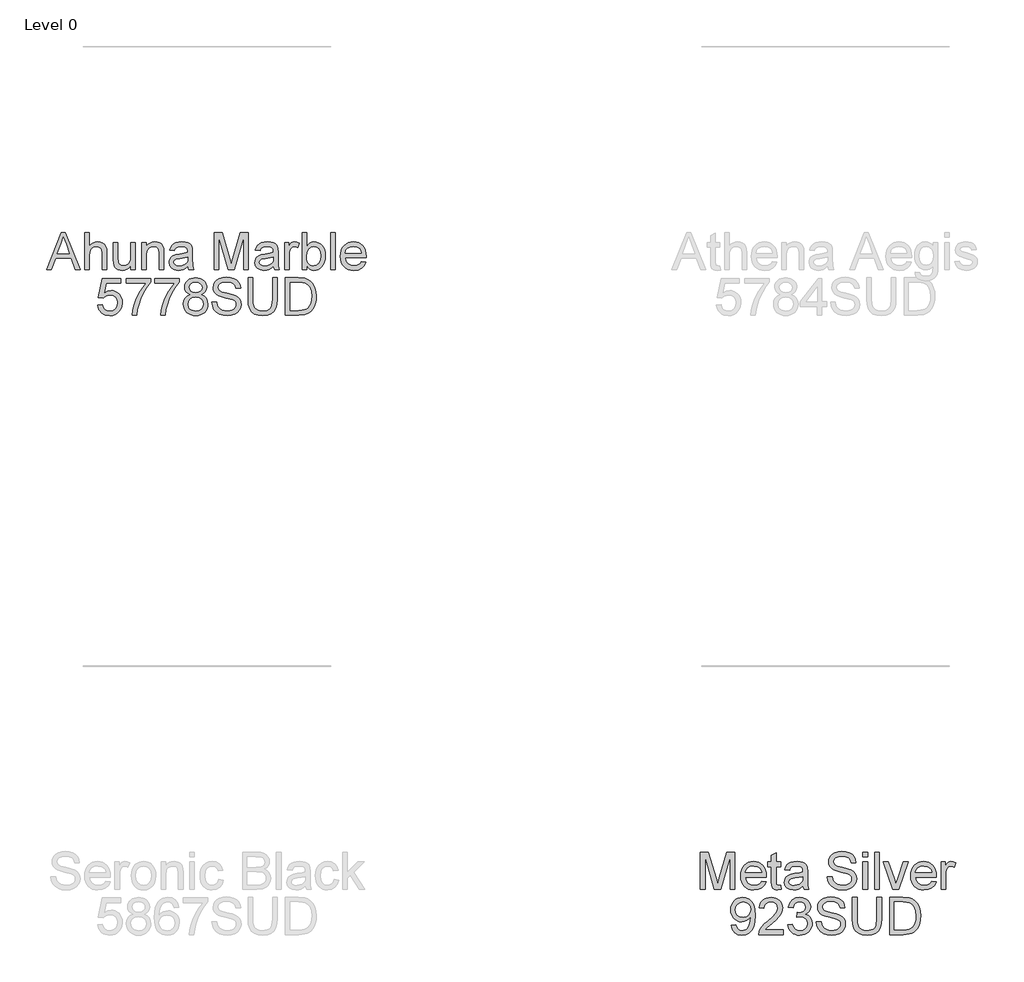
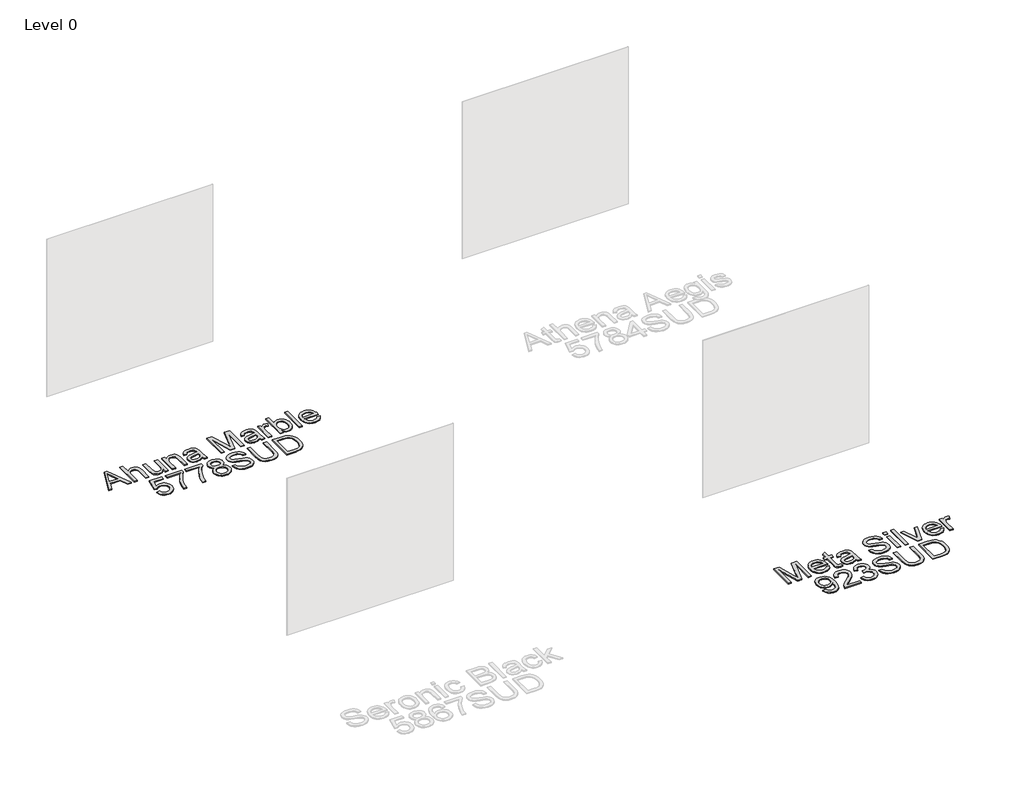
# One storey, part 9 of 29: 2 proxies.
"""IFC4 building model written with IfcOpenShell, lengths in millimetres."""

from ifc_helpers import new_model, si_unit, origin, origin_with_axes, place, context, project, spatial, polyline, outline, extrude, element, save

model = new_model("IFC4")

# Units and contexts
model_context = context("Model", 3, world=origin())
ifc_project = project(units=[si_unit("LENGTHUNIT", "METRE", prefix="MILLI")], contexts=[model_context])

# Site, building, storey
site = spatial("IfcSite", under=ifc_project)
building = spatial("IfcBuilding", under=site)
storey = spatial("IfcBuildingStorey", under=building, Name="Level 0", Elevation=0.0)

# Proxies
placement = place(None, origin())
element("IfcBuildingElementProxy", 1, Name="300mm Arial", ObjectType="300mm Arial", at=placement, inside=storey, context=model_context, shape_type="SweptSolid", body=[
    extrude(outline(polyline([(-10747.7363949, -7002.860494), (-10627.4389825, -6701.4915635), (-10595.3596725, -6701.4915635), (-10475.0622601, -7002.860494), (-10514.867092, -7002.860494), (-10549.3744231, -6908.6827032), (-10673.4978083, -6908.6827032), (-10707.931563, -7002.860494), (-10747.7363949, -7002.860494)]), holes=[polyline([(-10659.6654453, -6871.0115869), (-10563.1332097, -6871.0115869), (-10590.282901, -6796.9201531), (-10611.3993275, -6739.1626798), (-10630.1613092, -6790.44543), (-10659.6654453, -6871.0115869)])]), origin_with_axes(), (0.0, 0.0, 1.0), 10.0),
    extrude(outline(polyline([(-10439.5248593, -7002.860494), (-10439.5248593, -6701.4915635), (-10401.853743, -6701.4915635), (-10401.853743, -6812.2976205), (-10388.0167815, -6796.7821973), (-10372.4783657, -6785.6997522), (-10355.2384957, -6779.0502852), (-10336.2971715, -6776.8337961), (-10313.5436701, -6779.2526203), (-10293.9907421, -6786.5090926), (-10278.5948806, -6798.0329961), (-10268.3125788, -6813.2541137), (-10262.5184374, -6834.1682051), (-10260.5870569, -6862.7710302), (-10260.5870569, -7002.860494), (-10298.2581732, -7002.860494), (-10298.2581732, -6866.6705794), (-10301.2564115, -6843.0893435), (-10310.2511262, -6826.9393239), (-10324.7456768, -6817.6135153), (-10344.2434226, -6814.5049125), (-10360.1635159, -6816.6018398), (-10375.108722, -6822.8926219), (-10387.4879511, -6832.7702535), (-10395.7101137, -6845.6277292), (-10400.3178357, -6862.7158479), (-10401.853743, -6885.2854083), (-10401.853743, -7002.860494), (-10439.5248593, -7002.860494)])), origin_with_axes(), (0.0, 0.0, 1.0), 10.0),
    extrude(outline(polyline([(-10067.5225858, -7002.860494), (-10067.5225858, -6964.8214957), (-10081.1526137, -6983.5236966), (-10097.0267218, -6996.8824116), (-10115.1449101, -7004.8976405), (-10135.5071785, -7007.5693835), (-10153.855293, -7005.6931853), (-10170.9342147, -7000.0645908), (-10185.2632184, -6991.6033049), (-10195.3615791, -6981.2290327), (-10206.58198, -6953.4907302), (-10208.789272, -6918.4683643), (-10208.789272, -6781.5426857), (-10171.1181557, -6781.5426857), (-10171.1181557, -6900.7364521), (-10168.8372873, -6939.1433324), (-10163.3466485, -6951.9548229), (-10153.9380665, -6961.6944987), (-10141.2369406, -6967.8473251), (-10125.8686703, -6969.8982672), (-10109.6174831, -6967.8013398), (-10094.4147597, -6961.5105577), (-10081.8791807, -6951.605335), (-10073.6294269, -6938.6650858), (-10069.0492961, -6920.9423707), (-10067.5225858, -6896.6897502), (-10067.5225858, -6781.5426857), (-10029.8514695, -6781.5426857), (-10029.8514695, -7002.860494), (-10067.5225858, -7002.860494)])), origin_with_axes(), (0.0, 0.0, 1.0), 10.0),
    extrude(outline(polyline([(-9978.0536846, -7002.860494), (-9978.0536846, -6781.5426857), (-9940.3825683, -6781.5426857), (-9940.3825683, -6812.4447733), (-9927.2951663, -6796.8649708), (-9911.5774081, -6785.7365404), (-9893.2292936, -6779.0594822), (-9872.2508228, -6776.8337961), (-9853.6819791, -6778.6272209), (-9836.6766338, -6784.0074951), (-9822.4947829, -6792.303234), (-9812.3964222, -6802.8430532), (-9801.1024449, -6830.5445674), (-9799.1158821, -6866.964885), (-9799.1158821, -7002.860494), (-9836.7869984, -7002.860494), (-9836.7869984, -6872.0416565), (-9841.128006, -6838.7115477), (-9847.1336796, -6828.7879309), (-9856.4686852, -6821.0900002), (-9868.4340471, -6816.1511844), (-9882.3307894, -6814.5049125), (-9904.3945121, -6818.2021265), (-9923.2024791, -6829.2937687), (-9930.7187681, -6838.3482643), (-9936.087546, -6850.7228949), (-9940.3825683, -6885.4325611), (-9940.3825683, -7002.860494), (-9978.0536846, -7002.860494)])), origin_with_axes(), (0.0, 0.0, 1.0), 10.0),
    extrude(outline(polyline([(-9606.0514111, -6974.6071568), (-9624.0500377, -6990.0398064), (-9642.5820932, -7000.1381672), (-9662.0706419, -7005.7115794), (-9682.9387481, -7007.5693835), (-9714.4202498, -7003.0996173), (-9737.6428007, -6989.6903186), (-9751.9626074, -6969.3280501), (-9756.7358763, -6943.9993748), (-9754.9332545, -6928.3827841), (-9749.5253892, -6914.2009331), (-9741.1836649, -6902.0608273), (-9730.5794664, -6892.5694718), (-9704.2023274, -6880.2086368), (-9671.6079826, -6874.5432541), (-9633.0907377, -6868.5835657), (-9606.2721403, -6861.5938078), (-9606.0514111, -6853.2060983), (-9608.6449791, -6836.3938912), (-9616.4256833, -6825.3942195), (-9633.8265017, -6817.2272392), (-9658.0699252, -6814.5049125), (-9680.5107269, -6816.3167313), (-9696.1824999, -6821.7521878), (-9706.8694718, -6831.8045633), (-9714.3558705, -6847.4671392), (-9752.0269868, -6842.7582497), (-9745.4878843, -6822.156858), (-9735.7298144, -6805.9700502), (-9721.8422691, -6793.590821), (-9702.9147404, -6784.4121652), (-9679.7657659, -6778.7283884), (-9653.2138829, -6776.8337961), (-9627.7472517, -6778.5076592), (-9607.5597273, -6783.5292485), (-9592.3386097, -6791.0800264), (-9581.7711994, -6800.3414556), (-9574.7630474, -6811.7917827), (-9570.2197047, -6825.9092543), (-9568.3802948, -6858.8714811), (-9568.3802948, -6905.7396473), (-9566.4673084, -6971.1858542), (-9558.9625157, -7002.860494), (-9596.633632, -7002.860494), (-9606.0514111, -6974.6071568)]), holes=[polyline([(-9606.0514111, -6899.2649241), (-9666.8255167, -6910.8164188), (-9699.2359204, -6916.9232599), (-9713.9144121, -6926.8560738), (-9719.06476, -6941.3506244), (-9716.2596598, -6952.5526311), (-9707.8443591, -6961.7312869), (-9694.0027991, -6967.8565221), (-9674.9189206, -6969.8982672), (-9654.6854108, -6967.64499), (-9636.8063459, -6960.8851583), (-9622.3117953, -6950.9247533), (-9612.2318286, -6939.069756), (-9607.7620623, -6926.8560738), (-9606.2721403, -6909.933502), (-9606.0514111, -6899.2649241)])]), origin_with_axes(), (0.0, 0.0, 1.0), 10.0),
    extrude(outline(polyline([(-9394.1513818, -7002.860494), (-9394.1513818, -6701.4915635), (-9329.3305743, -6701.4915635), (-9267.6735519, -6913.9066275), (-9255.2391405, -6958.2731962), (-9241.7746594, -6910.2278076), (-9181.1477066, -6701.4915635), (-9116.3268991, -6701.4915635), (-9116.3268991, -7002.860494), (-9153.9980154, -7002.860494), (-9153.9980154, -6739.1626798), (-9229.70813, -7002.860494), (-9280.7701509, -7002.860494), (-9356.4802655, -6739.1626798), (-9356.4802655, -7002.860494), (-9394.1513818, -7002.860494)])), origin_with_axes(), (0.0, 0.0, 1.0), 10.0),
    extrude(outline(polyline([(-8913.8446489, -6974.6071568), (-8931.8432756, -6990.0398064), (-8950.3753311, -7000.1381672), (-8969.8638798, -7005.7115794), (-8990.7319859, -7007.5693835), (-9022.2134877, -7003.0996173), (-9045.4360386, -6989.6903186), (-9059.7558453, -6969.3280501), (-9064.5291142, -6943.9993748), (-9062.7264924, -6928.3827841), (-9057.3186271, -6914.2009331), (-9048.9769028, -6902.0608273), (-9038.3727043, -6892.5694718), (-9011.9955653, -6880.2086368), (-8979.4012205, -6874.5432541), (-8940.8839756, -6868.5835657), (-8914.0653781, -6861.5938078), (-8913.8446489, -6853.2060983), (-8916.438217, -6836.3938912), (-8924.2189212, -6825.3942195), (-8941.6197396, -6817.2272392), (-8965.8631631, -6814.5049125), (-8988.3039648, -6816.3167313), (-9003.9757378, -6821.7521878), (-9014.6627097, -6831.8045633), (-9022.1491083, -6847.4671392), (-9059.8202246, -6842.7582497), (-9053.2811222, -6822.156858), (-9043.5230522, -6805.9700502), (-9029.6355069, -6793.590821), (-9010.7079783, -6784.4121652), (-8987.5590037, -6778.7283884), (-8961.0071207, -6776.8337961), (-8935.5404896, -6778.5076592), (-8915.3529651, -6783.5292485), (-8900.1318476, -6791.0800264), (-8889.5644373, -6800.3414556), (-8882.5562853, -6811.7917827), (-8878.0129426, -6825.9092543), (-8876.1735326, -6858.8714811), (-8876.1735326, -6905.7396473), (-8874.2605463, -6971.1858542), (-8866.7557536, -7002.860494), (-8904.4268699, -7002.860494), (-8913.8446489, -6974.6071568)]), holes=[polyline([(-8913.8446489, -6899.2649241), (-8974.6187545, -6910.8164188), (-9007.0291583, -6916.9232599), (-9021.7076499, -6926.8560738), (-9026.8579979, -6941.3506244), (-9024.0528977, -6952.5526311), (-9015.637597, -6961.7312869), (-9001.7960369, -6967.8565221), (-8982.7121584, -6969.8982672), (-8962.4786487, -6967.64499), (-8944.5995837, -6960.8851583), (-8930.1050331, -6950.9247533), (-8920.0250665, -6939.069756), (-8915.5553002, -6926.8560738), (-8914.0653781, -6909.933502), (-8913.8446489, -6899.2649241)])]), origin_with_axes(), (0.0, 0.0, 1.0), 10.0),
    extrude(outline(polyline([(-8824.3757477, -7002.860494), (-8824.3757477, -6781.5426857), (-8791.413521, -6781.5426857), (-8791.413521, -6814.2841833), (-8779.2366269, -6795.3014723), (-8768.0162261, -6784.1178596), (-8756.759037, -6778.654812), (-8744.4717784, -6776.8337961), (-8725.7097966, -6779.7400639), (-8706.6535093, -6788.4588672), (-8719.2350735, -6822.2304343), (-8732.4788253, -6816.4362929), (-8745.7225771, -6814.5049125), (-8756.9705692, -6816.3627165), (-8767.0229447, -6821.9361288), (-8775.1439397, -6830.8020848), (-8780.5977903, -6842.5375205), (-8785.1779211, -6863.5803706), (-8786.7046314, -6886.5362071), (-8786.7046314, -7002.860494), (-8824.3757477, -7002.860494)])), origin_with_axes(), (0.0, 0.0, 1.0), 10.0),
    extrude(outline(polyline([(-8645.4379453, -7002.860494), (-8683.1090616, -7002.860494), (-8683.1090616, -6701.4915635), (-8645.4379453, -6701.4915635), (-8645.4379453, -6813.2541137), (-8633.0495191, -6797.3202248), (-8619.0608062, -6785.9388755), (-8603.4718067, -6779.110066), (-8586.2825204, -6776.8337961), (-8566.8767452, -6778.8847383), (-8548.5378277, -6785.0375646), (-8532.3142317, -6794.9059992), (-8519.2544209, -6808.1037657), (-8509.0181044, -6824.5021057), (-8501.2649914, -6843.9722603), (-8496.3813579, -6865.7048891), (-8494.75348, -6888.8906519), (-8496.4388394, -6915.64487), (-8501.4949176, -6939.1801206), (-8509.9217146, -6959.4964038), (-8521.7192303, -6976.5937195), (-8535.8803878, -6990.1455725), (-8551.3981102, -6999.8254675), (-8568.2723975, -7005.6334045), (-8586.5032496, -7007.5693835), (-8604.2581544, -7005.0723845), (-8619.9989053, -6997.5813874), (-8633.7255022, -6985.0963921), (-8645.4379453, -6967.6173988), (-8645.4379453, -7002.860494)]), holes=[polyline([(-8645.4379453, -6890.6564855), (-8642.8627713, -6922.0736078), (-8635.1372494, -6943.3371872), (-8626.0091774, -6954.9576597), (-8615.4003804, -6963.2579972), (-8603.3108583, -6968.2381997), (-8589.7406112, -6969.8982672), (-8567.9987853, -6965.0054367), (-8549.4207445, -6950.3269451), (-8536.6736334, -6925.9547629), (-8532.4245963, -6891.9808606), (-8536.4988894, -6857.5103177), (-8548.7217687, -6833.414047), (-8566.7203953, -6819.2321961), (-8588.1219304, -6814.5049125), (-8609.8637563, -6819.397743), (-8628.4417971, -6834.0762346), (-8641.1889082, -6858.0069584), (-8645.4379453, -6890.6564855)])]), origin_with_axes(), (0.0, 0.0, 1.0), 10.0),
    extrude(outline(polyline([(-8452.3734742, -7002.860494), (-8452.3734742, -6701.4915635), (-8414.7023579, -6701.4915635), (-8414.7023579, -7002.860494), (-8452.3734742, -7002.860494)])), origin_with_axes(), (0.0, 0.0, 1.0), 10.0),
    extrude(outline(polyline([(-8203.2437871, -6936.9360404), (-8166.3084347, -6941.64493), (-8179.6165659, -6969.4752029), (-8200.8525541, -6990.2789297), (-8229.5381527, -7003.2467701), (-8265.195115, -7007.5693835), (-8288.5694173, -7005.7046817), (-8309.3961368, -7000.1105761), (-8327.6752734, -6990.7870668), (-8343.4068272, -6977.7341537), (-8356.0573693, -6961.3151204), (-8365.0934708, -6941.8932503), (-8370.5151317, -6919.4685435), (-8372.322352, -6894.0409998), (-8370.4967376, -6867.7512327), (-8365.0198944, -6844.5792656), (-8355.8918224, -6824.5250983), (-8343.1125216, -6807.5887309), (-8327.4223545, -6794.133447), (-8309.5616837, -6784.5225298), (-8289.530509, -6778.7559796), (-8267.3288306, -6776.8337961), (-8245.8422228, -6778.751381), (-8226.4111557, -6784.5041357), (-8209.0356292, -6794.0920602), (-8193.7156434, -6807.5151545), (-8181.2099548, -6824.4147337), (-8172.2773201, -6844.4321128), (-8166.9177393, -6867.5672917), (-8165.1312124, -6893.8202706), (-8165.3519416, -6903.9738137), (-8334.6512357, -6903.9738137), (-8328.1305274, -6932.1719686), (-8312.9829862, -6952.902119), (-8291.1215987, -6965.6492302), (-8264.4593511, -6969.8982672), (-8244.4097823, -6967.9300985), (-8227.5239987, -6962.0255925), (-8213.8020003, -6951.8168672), (-8203.2437871, -6936.9360404)]), holes=[polyline([(-8334.6512357, -6866.3026974), (-8202.8023287, -6866.3026974), (-8207.8974943, -6846.4002814), (-8217.8854905, -6832.1632482), (-8239.8480456, -6818.9194964), (-8267.4759834, -6814.5049125), (-8292.8690381, -6818.0273826), (-8313.865903, -6828.5947929), (-8328.4616212, -6845.0667092), (-8334.6512357, -6866.3026974)])]), origin_with_axes(), (0.0, 0.0, 1.0), 10.0),
    extrude(outline(polyline([(-10333.5748447, -7288.7338254), (-10295.9037284, -7284.0249358), (-10288.9875469, -7306.6404815), (-10276.9210175, -7322.8364863), (-10259.7593224, -7332.5761621), (-10237.557644, -7335.8227207), (-10210.5551055, -7331.3069693), (-10190.3215958, -7317.7597148), (-10177.6848493, -7296.7444558), (-10173.4726004, -7269.8246908), (-10177.4181348, -7244.4776213), (-10189.254738, -7225.0902402), (-10209.0743805, -7212.7845875), (-10236.9690328, -7208.6827032), (-10255.2435709, -7210.3197781), (-10270.0416242, -7215.2310027), (-10291.1948389, -7232.2271509), (-10328.8659552, -7227.5182614), (-10295.9037284, -7072.1249066), (-10149.9281527, -7072.1249066), (-10149.9281527, -7109.7960229), (-10265.4430992, -7109.7960229), (-10281.5563306, -7192.790201), (-10254.6457627, -7176.4562404), (-10226.4476077, -7171.0115869), (-10208.1017925, -7172.6992456), (-10191.2504978, -7177.7622215), (-10175.8937238, -7186.2005148), (-10162.0314704, -7198.0141254), (-10150.5558514, -7212.4810848), (-10142.3589807, -7228.8794248), (-10137.4408583, -7247.2091452), (-10135.8014841, -7267.470246), (-10141.7059901, -7305.1413624), (-10149.0866227, -7321.9351754), (-10159.4195082, -7337.3678251), (-10175.0728871, -7353.1729553), (-10193.3382282, -7364.4623341), (-10214.2155314, -7371.2359613), (-10237.7047968, -7373.4938371), (-10274.7045285, -7367.6904986), (-10290.3831992, -7360.4363255), (-10304.1810733, -7350.2804832), (-10315.6612908, -7337.7288093), (-10324.3869919, -7323.2871418), (-10333.5748447, -7288.7338254)])), origin_with_axes(), (0.0, 0.0, 1.0), 10.0),
    extrude(outline(polyline([(-10102.8392574, -7109.7960229), (-10102.8392574, -7072.1249066), (-9905.0658967, -7072.1249066), (-9905.0658967, -7102.5855358), (-9933.2548546, -7138.2608923), (-9961.167901, -7183.6299393), (-9985.7884035, -7234.5540045), (-10004.0997299, -7286.8944154), (-10013.0760505, -7326.0554538), (-10018.0792457, -7368.7849475), (-10055.750362, -7368.7849475), (-10051.6760689, -7329.9550029), (-10040.7775648, -7283.8042066), (-10023.3491552, -7234.8850983), (-9999.6851459, -7187.7502177), (-9972.0572081, -7145.1402856), (-9942.7370131, -7109.7960229), (-10102.8392574, -7109.7960229)])), origin_with_axes(), (0.0, 0.0, 1.0), 10.0),
    extrude(outline(polyline([(-9872.10367, -7109.7960229), (-9872.10367, -7072.1249066), (-9674.3303094, -7072.1249066), (-9674.3303094, -7102.5855358), (-9702.5192673, -7138.2608923), (-9730.4323136, -7183.6299393), (-9755.0528162, -7234.5540045), (-9773.3641425, -7286.8944154), (-9782.3404632, -7326.0554538), (-9787.3436583, -7368.7849475), (-9825.0147746, -7368.7849475), (-9820.9404815, -7329.9550029), (-9810.0419774, -7283.8042066), (-9792.6135679, -7234.8850983), (-9768.9495585, -7187.7502177), (-9741.3216207, -7145.1402856), (-9712.0014257, -7109.7960229), (-9872.10367, -7109.7960229)])), origin_with_axes(), (0.0, 0.0, 1.0), 10.0),
    extrude(outline(polyline([(-9586.4800889, -7202.7965913), (-9606.6492193, -7192.8637774), (-9620.8034791, -7179.3992964), (-9629.1635974, -7162.6790597), (-9631.9503035, -7142.9789789), (-9630.4327903, -7127.6153071), (-9625.8802506, -7113.5300252), (-9618.2926845, -7100.7231332), (-9607.6700918, -7089.1946312), (-9594.522909, -7079.6664875), (-9579.3615723, -7072.8606706), (-9542.9964371, -7067.4160171), (-9506.4105727, -7072.9894293), (-9491.0836891, -7079.9561946), (-9477.7341712, -7089.709666), (-9466.9184405, -7101.4634957), (-9459.1929186, -7114.4313361), (-9454.5576055, -7128.613187), (-9453.0125011, -7144.0090485), (-9455.762419, -7163.0745329), (-9464.0121727, -7179.509661), (-9477.8537328, -7192.8913686), (-9497.3790697, -7202.7965913), (-9474.1933069, -7214.7435591), (-9457.3167204, -7232.3375155), (-9447.0252216, -7254.732332), (-9443.594722, -7281.0818799), (-9445.2961762, -7299.8714528), (-9450.4005389, -7317.0975272), (-9458.90781, -7332.7601031), (-9470.8179896, -7346.8591806), (-9485.5056783, -7358.5118428), (-9502.3454766, -7366.8351729), (-9521.3373846, -7371.829171), (-9542.4814023, -7373.4938371), (-9563.62542, -7371.8222732), (-9582.617328, -7366.8075818), (-9599.4571263, -7358.4497627), (-9614.144815, -7346.748816), (-9626.0549946, -7332.5508703), (-9634.5622657, -7316.702054), (-9639.6666284, -7299.2023674), (-9641.3680826, -7280.0518103), (-9637.7996273, -7252.6813898), (-9627.0942612, -7230.1670117), (-9609.8038074, -7213.2812282), (-9586.4800889, -7202.7965913)]), holes=[polyline([(-9594.2791872, -7144.0826249), (-9590.9406581, -7160.52695), (-9580.9250708, -7173.6603373), (-9564.5267309, -7182.268776), (-9542.0399439, -7185.1382555), (-9520.0773888, -7182.2871701), (-9503.9273692, -7173.7339137), (-9493.9945553, -7161.0419848), (-9490.6836174, -7145.774882), (-9494.1049199, -7129.9283651), (-9504.3688276, -7116.822569), (-9520.7395764, -7108.0209923), (-9542.4814023, -7105.0871334), (-9564.361184, -7107.9566129), (-9580.7043416, -7116.5650516), (-9590.8854758, -7129.1834041), (-9594.2791872, -7144.0826249)]), polyline([(-9603.6969663, -7278.7274351), (-9597.4061842, -7307.0911369), (-9588.6965779, -7319.2588339), (-9575.1493235, -7328.317928), (-9558.9257275, -7333.9465226), (-9542.1870967, -7335.8227207), (-9516.5457216, -7331.8771864), (-9497.3054933, -7320.0405832), (-9485.2757521, -7302.1155329), (-9481.2658383, -7279.9046575), (-9485.4045108, -7257.316703), (-9497.8205281, -7238.9961796), (-9517.5022148, -7226.8560738), (-9543.4378955, -7222.8093718), (-9568.7205856, -7226.8008915), (-9587.7676759, -7238.7754504), (-9599.7146437, -7256.7464859), (-9603.6969663, -7278.7274351)])]), origin_with_axes(), (0.0, 0.0, 1.0), 10.0),
    extrude(outline(polyline([(-9410.6324952, -7265.1893777), (-9372.9613789, -7265.1893777), (-9368.6387655, -7286.0942721), (-9360.8212731, -7302.8972822), (-9348.6259849, -7316.2330045), (-9331.1699843, -7326.7360355), (-9309.8328286, -7333.5510494), (-9285.9940753, -7335.8227207), (-9265.0064074, -7334.1028724), (-9246.6307018, -7328.9433274), (-9231.740678, -7320.7763471), (-9221.2100559, -7310.0341929), (-9214.9468649, -7297.700949), (-9212.8591346, -7284.7606998), (-9214.4226331, -7272.1515444), (-9219.1131285, -7261.2530403), (-9228.6412722, -7251.9548229), (-9244.7177154, -7244.1465276), (-9299.5689209, -7229.7623415), (-9335.5753712, -7220.2433949), (-9358.6139811, -7211.1843008), (-9377.3667658, -7198.510766), (-9390.6565029, -7183.1516928), (-9398.5751628, -7165.4381747), (-9401.2147162, -7145.7013056), (-9397.9497634, -7123.637583), (-9388.1549053, -7103.0637824), (-9372.0876592, -7085.6261758), (-9350.0055424, -7072.9710352), (-9323.4996447, -7065.2731044), (-9294.1610556, -7062.7071275), (-9262.3760512, -7065.3926661), (-9234.5641723, -7073.4492818), (-9211.7187004, -7086.7114277), (-9194.8329169, -7105.013557), (-9184.1459449, -7127.2152354), (-9179.8969079, -7152.1760288), (-9217.5680242, -7152.1760288), (-9224.4842057, -7129.6984389), (-9238.9051799, -7113.4748429), (-9261.4379521, -7103.6523936), (-9292.6895276, -7100.3782438), (-9324.6768671, -7103.6156054), (-9346.6210281, -7113.3276901), (-9359.3129569, -7127.6199056), (-9363.5435998, -7144.5976597), (-9360.5453616, -7159.0738162), (-9351.5506468, -7170.7172813), (-9330.2870675, -7181.1283418), (-9290.0407772, -7191.7601314), (-9248.5069, -7201.8584922), (-9223.3805597, -7210.669266), (-9201.9054482, -7224.3360821), (-9186.923454, -7241.2034716), (-9178.1218772, -7261.0874934), (-9175.1880183, -7283.8042066), (-9178.5633356, -7307.0267576), (-9188.6892875, -7328.869751), (-9205.1520068, -7347.668521), (-9227.5376262, -7361.7584014), (-9254.4573912, -7370.5599781), (-9284.5225473, -7373.4938371), (-9321.4303085, -7370.3300519), (-9351.8081642, -7360.8386964), (-9376.0056024, -7344.9829824), (-9394.372111, -7322.7261217), (-9406.162729, -7295.6132187), (-9410.6324952, -7265.1893777)])), origin_with_axes(), (0.0, 0.0, 1.0), 10.0),
    extrude(outline(polyline([(-8920.9079833, -7067.4160171), (-8883.2368669, -7067.4160171), (-8883.2368669, -7241.277048), (-8885.7936468, -7281.9923878), (-8893.4639864, -7313.3451308), (-8907.7929901, -7337.533372), (-8930.3257623, -7356.7552063), (-8961.1174853, -7369.3091794), (-9000.2233414, -7373.4938371), (-9038.4738719, -7369.8518053), (-9069.0540627, -7358.92571), (-9091.973111, -7341.0926303), (-9107.2402138, -7316.7296452), (-9115.8210613, -7284.052527), (-9118.6813439, -7241.277048), (-9118.6813439, -7067.4160171), (-9081.0102276, -7067.4160171), (-9081.0102276, -7239.9526728), (-9079.1524235, -7273.8070134), (-9073.5790113, -7297.3790523), (-9063.4806505, -7313.7038158), (-9048.0480008, -7325.8163305), (-9027.9248556, -7333.3211232), (-9003.7550086, -7335.8227207), (-8965.4400988, -7330.8747079), (-8951.0972995, -7324.6896919), (-8939.9642706, -7316.0306694), (-8931.6271449, -7303.8537754), (-8925.6720551, -7287.1151446), (-8920.9079833, -7239.9526728), (-8920.9079833, -7067.4160171)])), origin_with_axes(), (0.0, 0.0, 1.0), 10.0),
    extrude(outline(polyline([(-8817.3124134, -7368.7849475), (-8817.3124134, -7067.4160171), (-8713.3489616, -7067.4160171), (-8659.5646139, -7071.7570246), (-8635.5419196, -7080.12634), (-8615.2716217, -7093.3149095), (-8594.4311066, -7116.270746), (-8579.5870681, -7144.8183889), (-8570.7027179, -7178.406015), (-8567.7412679, -7216.4818015), (-8569.7462248, -7248.8278259), (-8575.7610954, -7277.2926953), (-8584.9213571, -7301.5269217), (-8596.3624871, -7321.1810173), (-8609.5326625, -7336.6964405), (-8623.8800603, -7348.5146496), (-8640.3519767, -7357.2794381), (-8659.8957077, -7363.6345996), (-8708.3457664, -7368.7849475), (-8817.3124134, -7368.7849475)]), holes=[polyline([(-8779.6412971, -7331.1138312), (-8712.9810796, -7331.1138312), (-8685.408324, -7329.7526678), (-8664.4942326, -7325.6691777), (-8648.712095, -7319.1024841), (-8636.535201, -7310.2917103), (-8623.447799, -7293.9853408), (-8613.6161527, -7272.8781114), (-8607.4633263, -7246.8780514), (-8605.4123842, -7215.8931903), (-8609.431495, -7174.8375597), (-8621.4888274, -7144.5240833), (-8639.303513, -7123.7019623), (-8660.5946835, -7111.1203981), (-8682.262933, -7106.5954496), (-8714.0111492, -7105.0871334), (-8779.6412971, -7105.0871334), (-8779.6412971, -7331.1138312)])]), origin_with_axes(), (0.0, 0.0, 1.0), 10.0),
])
element("IfcBuildingElementProxy", 2, Name="300mm Arial", ObjectType="300mm Arial", at=placement, inside=storey, context=model_context, shape_type="SweptSolid", body=[
    extrude(outline(polyline([(-5463.069307, -12012.860494), (-5463.069307, -11711.4915635), (-5398.2484995, -11711.4915635), (-5336.5914771, -11923.9066275), (-5324.1570657, -11968.2731962), (-5310.6925846, -11920.2278076), (-5250.0656318, -11711.4915635), (-5185.2448243, -11711.4915635), (-5185.2448243, -12012.860494), (-5222.9159406, -12012.860494), (-5222.9159406, -11749.1626798), (-5298.6260552, -12012.860494), (-5349.6880761, -12012.860494), (-5425.3981907, -11749.1626798), (-5425.3981907, -12012.860494), (-5463.069307, -12012.860494)])), origin_with_axes(), (0.0, 0.0, 1.0), 10.0),
    extrude(outline(polyline([(-4969.0773639, -11946.9360404), (-4932.1420116, -11951.64493), (-4945.4501428, -11979.4752029), (-4966.6861309, -12000.2789297), (-4995.3717295, -12013.2467701), (-5031.0286919, -12017.5693835), (-5054.4029942, -12015.7046817), (-5075.2297136, -12010.1105761), (-5093.5088503, -12000.7870668), (-5109.2404041, -11987.7341537), (-5121.8909462, -11971.3151204), (-5130.9270477, -11951.8932503), (-5136.3487086, -11929.4685435), (-5138.1559289, -11904.0409998), (-5136.3303145, -11877.7512327), (-5130.8534713, -11854.5792656), (-5121.7253993, -11834.5250983), (-5108.9460985, -11817.5887309), (-5093.2559314, -11804.133447), (-5075.3952605, -11794.5225298), (-5055.3640859, -11788.7559796), (-5033.1624075, -11786.8337961), (-5011.6757997, -11788.751381), (-4992.2447326, -11794.5041357), (-4974.8692061, -11804.0920602), (-4959.5492202, -11817.5151545), (-4947.0435317, -11834.4147337), (-4938.110897, -11854.4321128), (-4932.7513161, -11877.5672917), (-4930.9647892, -11903.8202706), (-4931.1855184, -11913.9738137), (-5100.4848126, -11913.9738137), (-5093.9641042, -11942.1719686), (-5078.8165631, -11962.902119), (-5056.9551755, -11975.6492302), (-5030.2929279, -11979.8982672), (-5010.2433592, -11977.9300985), (-4993.3575756, -11972.0255925), (-4979.6355772, -11961.8168672), (-4969.0773639, -11946.9360404)]), holes=[polyline([(-5100.4848126, -11876.3026974), (-4968.6359055, -11876.3026974), (-4973.7310711, -11856.4002814), (-4983.7190673, -11842.1632482), (-5005.6816224, -11828.9194964), (-5033.3095603, -11824.5049125), (-5058.702615, -11828.0273826), (-5079.6994799, -11838.5947929), (-5094.295198, -11855.0667092), (-5100.4848126, -11876.3026974)])]), origin_with_axes(), (0.0, 0.0, 1.0), 10.0),
    extrude(outline(polyline([(-4813.2425508, -11981.4433716), (-4808.5336612, -12013.96414), (-4836.713422, -12017.5693835), (-4854.7948221, -12016.005885), (-4868.2776972, -12011.3153896), (-4877.8058409, -12004.0865084), (-4884.0230466, -11994.9078526), (-4887.4443492, -11979.1441091), (-4888.5847834, -11952.1599648), (-4888.5847834, -11829.213802), (-4916.8381206, -11829.213802), (-4916.8381206, -11791.5426857), (-4888.5847834, -11791.5426857), (-4888.5847834, -11737.758338), (-4850.9136671, -11715.6118419), (-4850.9136671, -11791.5426857), (-4813.2425508, -11791.5426857), (-4813.2425508, -11829.213802), (-4850.9136671, -11829.213802), (-4850.9136671, -11951.0563188), (-4848.9271043, -11970.4804881), (-4842.4891694, -11977.3598814), (-4829.6500877, -11979.8982672), (-4813.2425508, -11981.4433716)])), origin_with_axes(), (0.0, 0.0, 1.0), 10.0),
    extrude(outline(polyline([(-4634.3047483, -11984.6071568), (-4652.3033749, -12000.0398064), (-4670.8354304, -12010.1381672), (-4690.3239791, -12015.7115794), (-4711.1920853, -12017.5693835), (-4742.673587, -12013.0996173), (-4765.896138, -11999.6903186), (-4780.2159446, -11979.3280501), (-4784.9892135, -11953.9993748), (-4783.1865917, -11938.3827841), (-4777.7787264, -11924.2009331), (-4769.4370022, -11912.0608273), (-4758.8328037, -11902.5694718), (-4732.4556646, -11890.2086368), (-4699.8613198, -11884.5432541), (-4661.3440749, -11878.5835657), (-4634.5254775, -11871.5938078), (-4634.3047483, -11863.2060983), (-4636.8983164, -11846.3938912), (-4644.6790206, -11835.3942195), (-4662.0798389, -11827.2272392), (-4686.3232624, -11824.5049125), (-4708.7640641, -11826.3167313), (-4724.4358371, -11831.7521878), (-4735.1228091, -11841.8045633), (-4742.6092077, -11857.4671392), (-4780.280324, -11852.7582497), (-4773.7412215, -11832.156858), (-4763.9831516, -11815.9700502), (-4750.0956063, -11803.590821), (-4731.1680776, -11794.4121652), (-4708.0191031, -11788.7283884), (-4681.4672201, -11786.8337961), (-4656.000589, -11788.5076592), (-4635.8130645, -11793.5292485), (-4620.5919469, -11801.0800264), (-4610.0245366, -11810.3414556), (-4603.0163846, -11821.7917827), (-4598.473042, -11835.9092543), (-4596.633632, -11868.8714811), (-4596.633632, -11915.7396473), (-4594.7206456, -11981.1858542), (-4587.2158529, -12012.860494), (-4624.8869692, -12012.860494), (-4634.3047483, -11984.6071568)]), holes=[polyline([(-4634.3047483, -11909.2649241), (-4695.0788539, -11920.8164188), (-4727.4892577, -11926.9232599), (-4742.1677493, -11936.8560738), (-4747.3180972, -11951.3506244), (-4744.512997, -11962.5526311), (-4736.0976964, -11971.7312869), (-4722.2561363, -11977.8565221), (-4703.1722578, -11979.8982672), (-4682.9387481, -11977.64499), (-4665.0596831, -11970.8851583), (-4650.5651325, -11960.9247533), (-4640.4851658, -11949.069756), (-4636.0153996, -11936.8560738), (-4634.5254775, -11919.933502), (-4634.3047483, -11909.2649241)])]), origin_with_axes(), (0.0, 0.0, 1.0), 10.0),
    extrude(outline(polyline([(-4436.5313877, -11909.2649241), (-4398.8602714, -11909.2649241), (-4394.5376579, -11930.1698185), (-4386.7201655, -11946.9728286), (-4374.5248774, -11960.308551), (-4357.0688767, -11970.8115819), (-4335.731721, -11977.6265959), (-4311.8929677, -11979.8982672), (-4290.9052999, -11978.1784189), (-4272.5295942, -11973.0188739), (-4257.6395705, -11964.8518936), (-4247.1089484, -11954.1097394), (-4240.8457574, -11941.7764955), (-4238.7580271, -11928.8362463), (-4240.3215256, -11916.2270909), (-4245.012021, -11905.3285868), (-4254.5401647, -11896.0303694), (-4270.6166079, -11888.222074), (-4325.4678133, -11873.837888), (-4361.4742636, -11864.3189414), (-4384.5128736, -11855.2598472), (-4403.2656583, -11842.5863125), (-4416.5553954, -11827.2272392), (-4424.4740553, -11809.5137211), (-4427.1136086, -11789.7768521), (-4423.8486559, -11767.7131294), (-4414.0537978, -11747.1393289), (-4397.9865516, -11729.7017223), (-4375.9044349, -11717.0465817), (-4349.3985371, -11709.3486509), (-4320.059948, -11706.782674), (-4288.2749436, -11709.4682126), (-4260.4630648, -11717.5248283), (-4237.6175929, -11730.7869742), (-4220.7318093, -11749.0891034), (-4210.0448374, -11771.2907818), (-4205.7958003, -11796.2515752), (-4243.4669166, -11796.2515752), (-4250.3830981, -11773.7739853), (-4264.8040723, -11757.5503893), (-4287.3368445, -11747.7279401), (-4318.58842, -11744.4537903), (-4350.5757595, -11747.6911519), (-4372.5199205, -11757.4032365), (-4385.2118494, -11771.695452), (-4389.4424923, -11788.6732061), (-4386.444254, -11803.1493626), (-4377.4495393, -11814.7928278), (-4356.1859599, -11825.2038882), (-4315.9396697, -11835.8356779), (-4274.4057924, -11845.9340387), (-4249.2794521, -11854.7448125), (-4227.8043407, -11868.4116286), (-4212.8223464, -11885.2790181), (-4204.0207697, -11905.1630399), (-4201.0869108, -11927.8797531), (-4204.4622281, -11951.102304), (-4214.58818, -11972.9452975), (-4231.0508993, -11991.7440675), (-4253.4365187, -12005.8339479), (-4280.3562837, -12014.6355246), (-4310.4214397, -12017.5693835), (-4347.3292009, -12014.4055984), (-4377.7070567, -12004.9142429), (-4401.9044949, -11989.0585289), (-4420.2710035, -11966.8016682), (-4432.0616215, -11939.6887651), (-4436.5313877, -11909.2649241)])), origin_with_axes(), (0.0, 0.0, 1.0), 10.0),
    extrude(outline(polyline([(-4149.2891259, -11749.1626798), (-4149.2891259, -11711.4915635), (-4111.6180096, -11711.4915635), (-4111.6180096, -11749.1626798), (-4149.2891259, -11749.1626798)])), origin_with_axes(), (0.0, 0.0, 1.0), 10.0),
    extrude(outline(polyline([(-4149.2891259, -12012.860494), (-4149.2891259, -11791.5426857), (-4111.6180096, -11791.5426857), (-4111.6180096, -12012.860494), (-4149.2891259, -12012.860494)])), origin_with_axes(), (0.0, 0.0, 1.0), 10.0),
    extrude(outline(polyline([(-4055.1113351, -12012.860494), (-4055.1113351, -11711.4915635), (-4017.4402188, -11711.4915635), (-4017.4402188, -12012.860494), (-4055.1113351, -12012.860494)])), origin_with_axes(), (0.0, 0.0, 1.0), 10.0),
    extrude(outline(polyline([(-3906.6341618, -12012.860494), (-3984.477992, -11791.5426857), (-3944.5995837, -11791.5426857), (-3897.437112, -11924.1273567), (-3883.2368669, -11968.7146546), (-3869.3309275, -11926.6289543), (-3821.8741502, -11791.5426857), (-3781.9957419, -11791.5426857), (-3858.8830789, -12012.860494), (-3906.6341618, -12012.860494)])), origin_with_axes(), (0.0, 0.0, 1.0), 10.0),
    extrude(outline(polyline([(-3594.0816187, -11946.9360404), (-3557.1462664, -11951.64493), (-3570.4543976, -11979.4752029), (-3591.6903858, -12000.2789297), (-3620.3759843, -12013.2467701), (-3656.0329467, -12017.5693835), (-3679.407249, -12015.7046817), (-3700.2339684, -12010.1105761), (-3718.5131051, -12000.7870668), (-3734.2446589, -11987.7341537), (-3746.895201, -11971.3151204), (-3755.9313025, -11951.8932503), (-3761.3529634, -11929.4685435), (-3763.1601837, -11904.0409998), (-3761.3345693, -11877.7512327), (-3755.8577261, -11854.5792656), (-3746.7296541, -11834.5250983), (-3733.9503533, -11817.5887309), (-3718.2601862, -11804.133447), (-3700.3995153, -11794.5225298), (-3680.3683407, -11788.7559796), (-3658.1666623, -11786.8337961), (-3636.6800545, -11788.751381), (-3617.2489874, -11794.5041357), (-3599.8734609, -11804.0920602), (-3584.5534751, -11817.5151545), (-3572.0477865, -11834.4147337), (-3563.1151518, -11854.4321128), (-3557.755571, -11877.5672917), (-3555.969044, -11903.8202706), (-3556.1897732, -11913.9738137), (-3725.4890674, -11913.9738137), (-3718.9683591, -11942.1719686), (-3703.8208179, -11962.902119), (-3681.9594303, -11975.6492302), (-3655.2971827, -11979.8982672), (-3635.247614, -11977.9300985), (-3618.3618304, -11972.0255925), (-3604.639832, -11961.8168672), (-3594.0816187, -11946.9360404)]), holes=[polyline([(-3725.4890674, -11876.3026974), (-3593.6401603, -11876.3026974), (-3598.735326, -11856.4002814), (-3608.7233221, -11842.1632482), (-3630.6858773, -11828.9194964), (-3658.3138151, -11824.5049125), (-3683.7068698, -11828.0273826), (-3704.7037347, -11838.5947929), (-3719.2994528, -11855.0667092), (-3725.4890674, -11876.3026974)])]), origin_with_axes(), (0.0, 0.0, 1.0), 10.0),
    extrude(outline(polyline([(-3518.2979277, -12012.860494), (-3518.2979277, -11791.5426857), (-3485.335701, -11791.5426857), (-3485.335701, -11824.2841833), (-3473.1588069, -11805.3014723), (-3461.9384061, -11794.1178596), (-3450.681217, -11788.654812), (-3438.3939584, -11786.8337961), (-3419.6319766, -11789.7400639), (-3400.5756893, -11798.4588672), (-3413.1572535, -11832.2304343), (-3426.4010053, -11826.4362929), (-3439.6447572, -11824.5049125), (-3450.8927492, -11826.3627165), (-3460.9451247, -11831.9361288), (-3469.0661197, -11840.8020848), (-3474.5199703, -11852.5375205), (-3479.1001011, -11873.5803706), (-3480.6268114, -11896.5362071), (-3480.6268114, -12012.860494), (-3518.2979277, -12012.860494)])), origin_with_axes(), (0.0, 0.0, 1.0), 10.0),
    extrude(outline(polyline([(-5213.4981615, -12303.4427149), (-5175.8270452, -12298.7338254), (-5169.3891103, -12320.1169663), (-5158.9044734, -12334.6758963), (-5144.630652, -12343.0360146), (-5126.8251634, -12345.8227207), (-5110.8498878, -12344.029296), (-5096.327746, -12338.6490218), (-5084.2612166, -12330.2705094), (-5075.6527779, -12319.4823699), (-5063.3287311, -12286.7408723), (-5057.8840775, -12243.0364913), (-5058.1048067, -12235.6788514), (-5071.1554205, -12251.6081418), (-5088.2343421, -12264.2264942), (-5108.1091669, -12272.4486568), (-5129.5474902, -12275.1893777), (-5147.44265, -12273.5155146), (-5163.8984715, -12268.4939254), (-5178.9149547, -12260.12461), (-5192.4920996, -12248.4075684), (-5203.7423908, -12233.9544045), (-5211.7783132, -12217.3767221), (-5216.5998666, -12198.6745212), (-5218.207051, -12177.8478018), (-5216.5216917, -12156.326705), (-5211.4656135, -12137.0129003), (-5203.0388165, -12119.9063875), (-5191.2413008, -12105.0071667), (-5176.9053993, -12092.9360387), (-5160.863445, -12084.3138045), (-5143.115438, -12079.1404639), (-5123.6613783, -12077.4160171), (-5095.5643909, -12081.3523544), (-5069.9873952, -12093.1613665), (-5048.5950572, -12112.254442), (-5033.0520429, -12138.0429699), (-5023.5882785, -12173.6907352), (-5020.4336904, -12222.3615232), (-5023.5790815, -12273.96617), (-5033.0152547, -12313.8537754), (-5048.6594365, -12343.8269609), (-5070.4288536, -12365.6883485), (-5097.3854068, -12379.0424649), (-5128.590997, -12383.4938371), (-5160.7990657, -12378.2423216), (-5186.4956231, -12362.4877751), (-5204.4666585, -12337.2234791), (-5213.4981615, -12303.4427149)]), holes=[polyline([(-5058.1048067, -12176.964885), (-5062.1699028, -12151.4338745), (-5074.3651909, -12131.788976), (-5093.2927196, -12119.262594), (-5117.5545372, -12115.0871334), (-5142.7176656, -12119.5844908), (-5162.877599, -12133.0765629), (-5176.1213508, -12153.7239399), (-5180.5359347, -12179.6872117), (-5176.3604741, -12202.964945), (-5163.8340922, -12221.4418182), (-5144.1707995, -12233.4991506), (-5118.5846068, -12237.5182614), (-5094.5159272, -12233.4991506), (-5075.1377431, -12221.4418182), (-5062.3630408, -12202.2843633), (-5058.1048067, -12176.964885)])]), origin_with_axes(), (0.0, 0.0, 1.0), 10.0),
    extrude(outline(polyline([(-4794.4069926, -12341.1138312), (-4794.4069926, -12378.7849475), (-4992.1803532, -12378.7849475), (-4988.1336513, -12352.8124787), (-4978.8446309, -12332.5145896), (-4965.2513912, -12312.8237058), (-4945.5880985, -12292.213117), (-4918.0889194, -12269.156113), (-4877.4379589, -12233.0484951), (-4853.0473826, -12206.3954446), (-4840.8520945, -12184.7639833), (-4836.7869984, -12163.7211331), (-4840.6221682, -12144.8579838), (-4852.1276776, -12129.1770138), (-4869.8136046, -12118.6096035), (-4892.1900269, -12115.0871334), (-4915.6884894, -12118.52683), (-4933.9446334, -12128.84592), (-4945.7260543, -12145.2350629), (-4949.8003474, -12166.8849183), (-4987.4714637, -12162.1760288), (-4978.3387931, -12125.7373171), (-4969.7924345, -12111.2013798), (-4958.592727, -12099.1210548), (-4944.9971881, -12089.6251008), (-4929.263335, -12082.8422765), (-4891.3806865, -12077.4160171), (-4871.1908628, -12078.9243332), (-4853.2221266, -12083.4492818), (-4837.4744779, -12090.9908627), (-4823.9479168, -12101.549076), (-4813.0839016, -12114.3421723), (-4805.3238908, -12128.5884026), (-4800.6678843, -12144.2877667), (-4799.1158821, -12161.4402648), (-4800.7897452, -12179.4572855), (-4805.8113345, -12197.1616065), (-4814.7232758, -12215.1694302), (-4828.0681952, -12234.0969588), (-4849.3409715, -12256.6941104), (-4882.0364839, -12285.7108027), (-4925.3729829, -12321.9471793), (-4942.3691311, -12341.1138312), (-4794.4069926, -12341.1138312)])), origin_with_axes(), (0.0, 0.0, 1.0), 10.0),
    extrude(outline(polyline([(-4756.7358763, -12298.7338254), (-4719.06476, -12294.0249358), (-4710.6310652, -12317.6981422), (-4698.2794273, -12333.6826149), (-4681.4028407, -12342.7876943), (-4659.3943004, -12345.8227207), (-4633.5689843, -12341.6472601), (-4613.6297802, -12329.1208782), (-4600.882669, -12310.4324728), (-4596.633632, -12287.7709419), (-4600.8458808, -12266.2590422), (-4613.4826274, -12248.8122386), (-4632.6124911, -12237.2515469), (-4656.3040916, -12233.397983), (-4682.7180189, -12237.5182614), (-4678.5241641, -12199.8471451), (-4672.4908994, -12200.2886035), (-4649.921339, -12197.5846708), (-4629.7430116, -12189.4728728), (-4615.5059783, -12175.7508744), (-4610.7603006, -12156.2163404), (-4614.1999973, -12139.9467592), (-4624.5190872, -12126.7489926), (-4640.2644366, -12118.0025982), (-4659.9829116, -12115.0871334), (-4679.7381747, -12118.0301893), (-4695.8881943, -12126.8593572), (-4707.6788122, -12141.574637), (-4714.3558705, -12162.1760288), (-4752.0269868, -12157.4671392), (-4740.9353446, -12123.6403898), (-4721.1984756, -12098.3852908), (-4694.1959371, -12082.6583355), (-4661.3072867, -12077.4160171), (-4637.6248833, -12080.0003881), (-4615.8738603, -12087.7535011), (-4597.5349429, -12099.9855775), (-4584.088856, -12116.0068384), (-4575.8391022, -12134.4653175), (-4573.0891843, -12154.0090485), (-4575.7011465, -12172.2192072), (-4583.537033, -12188.7371088), (-4596.4864792, -12202.8085951), (-4614.4391206, -12213.6795081), (-4590.8578847, -12223.2076518), (-4573.3834899, -12239.4312477), (-4562.5677592, -12261.4673793), (-4558.9625157, -12288.4331295), (-4560.7651375, -12307.5445992), (-4566.1730028, -12325.1477526), (-4575.1861117, -12341.2425899), (-4587.8044641, -12355.829111), (-4603.177333, -12367.9324287), (-4620.4539912, -12376.5776555), (-4639.6344387, -12381.7647917), (-4660.7186756, -12383.4938371), (-4679.7749629, -12382.0177105), (-4697.1389931, -12377.589331), (-4712.8107661, -12370.2086985), (-4726.7902819, -12359.875813), (-4738.511922, -12347.1976797), (-4747.4100677, -12332.781304), (-4753.4847192, -12316.6266859), (-4756.7358763, -12298.7338254)])), origin_with_axes(), (0.0, 0.0, 1.0), 10.0),
    extrude(outline(polyline([(-4526.0002889, -12275.1893777), (-4488.3291726, -12275.1893777), (-4484.0065592, -12296.0942721), (-4476.1890668, -12312.8972822), (-4463.9937786, -12326.2330045), (-4446.537778, -12336.7360355), (-4425.2006222, -12343.5510494), (-4401.361869, -12345.8227207), (-4380.3742011, -12344.1028724), (-4361.9984955, -12338.9433274), (-4347.1084717, -12330.7763471), (-4336.5778496, -12320.0341929), (-4330.3146586, -12307.700949), (-4328.2269283, -12294.7606998), (-4329.7904268, -12282.1515444), (-4334.4809222, -12271.2530403), (-4344.0090659, -12261.9548229), (-4360.0855091, -12254.1465276), (-4414.9367146, -12239.7623415), (-4450.9431649, -12230.2433949), (-4473.9817748, -12221.1843008), (-4492.7345595, -12208.510766), (-4506.0242966, -12193.1516928), (-4513.9429565, -12175.4381747), (-4516.5825098, -12155.7013056), (-4513.3175571, -12133.637583), (-4503.522699, -12113.0637824), (-4487.4554529, -12095.6261758), (-4465.3733361, -12082.9710352), (-4438.8674384, -12075.2731044), (-4409.5288492, -12072.7071275), (-4377.7438449, -12075.3926661), (-4349.931966, -12083.4492818), (-4327.0864941, -12096.7114277), (-4310.2007105, -12115.013557), (-4299.5137386, -12137.2152354), (-4295.2647015, -12162.1760288), (-4332.9358179, -12162.1760288), (-4339.8519994, -12139.6984389), (-4354.2729736, -12123.4748429), (-4376.8057458, -12113.6523936), (-4408.0573213, -12110.3782438), (-4440.0446607, -12113.6156054), (-4461.9888218, -12123.3276901), (-4474.6807506, -12137.6199056), (-4478.9113935, -12154.5976597), (-4475.9131553, -12169.0738162), (-4466.9184405, -12180.7172813), (-4445.6548612, -12191.1283418), (-4405.4085709, -12201.7601314), (-4363.8746936, -12211.8584922), (-4338.7483534, -12220.669266), (-4317.2732419, -12234.3360821), (-4302.2912477, -12251.2034716), (-4293.4896709, -12271.0874934), (-4290.555812, -12293.8042066), (-4293.9311293, -12317.0267576), (-4304.0570812, -12338.869751), (-4320.5198005, -12357.668521), (-4342.9054199, -12371.7584014), (-4369.8251849, -12380.5599781), (-4399.890341, -12383.4938371), (-4436.7981021, -12380.3300519), (-4467.1759579, -12370.8386964), (-4491.3733961, -12354.9829824), (-4509.7399047, -12332.7261217), (-4521.5305227, -12305.6132187), (-4526.0002889, -12275.1893777)])), origin_with_axes(), (0.0, 0.0, 1.0), 10.0),
    extrude(outline(polyline([(-4036.2757769, -12077.4160171), (-3998.6046606, -12077.4160171), (-3998.6046606, -12251.277048), (-4001.1614405, -12291.9923878), (-4008.8317801, -12323.3451308), (-4023.1607838, -12347.533372), (-4045.693556, -12366.7552063), (-4076.485279, -12379.3091794), (-4115.5911351, -12383.4938371), (-4153.8416655, -12379.8518053), (-4184.4218564, -12368.92571), (-4207.3409047, -12351.0926303), (-4222.6080075, -12326.7296452), (-4231.188855, -12294.052527), (-4234.0491375, -12251.277048), (-4234.0491375, -12077.4160171), (-4196.3780212, -12077.4160171), (-4196.3780212, -12249.9526728), (-4194.5202172, -12283.8070134), (-4188.9468049, -12307.3790523), (-4178.8484442, -12323.7038158), (-4163.4157945, -12335.8163305), (-4143.2926493, -12343.3211232), (-4119.1228023, -12345.8227207), (-4080.8078925, -12340.8747079), (-4066.4650932, -12334.6896919), (-4055.3320643, -12326.0306694), (-4046.9949386, -12313.8537754), (-4041.0398488, -12297.1151446), (-4036.2757769, -12249.9526728), (-4036.2757769, -12077.4160171)])), origin_with_axes(), (0.0, 0.0, 1.0), 10.0),
    extrude(outline(polyline([(-3932.6802071, -12378.7849475), (-3932.6802071, -12077.4160171), (-3828.7167553, -12077.4160171), (-3774.9324076, -12081.7570246), (-3750.9097133, -12090.12634), (-3730.6394153, -12103.3149095), (-3709.7989003, -12126.270746), (-3694.9548618, -12154.8183889), (-3686.0705116, -12188.406015), (-3683.1090616, -12226.4818015), (-3685.1140184, -12258.8278259), (-3691.1288891, -12287.2926953), (-3700.2891507, -12311.5269217), (-3711.7302808, -12331.1810173), (-3724.9004562, -12346.6964405), (-3739.247854, -12358.5146496), (-3755.7197704, -12367.2794381), (-3775.2635014, -12373.6345996), (-3823.7135601, -12378.7849475), (-3932.6802071, -12378.7849475)]), holes=[polyline([(-3895.0090908, -12341.1138312), (-3828.3488733, -12341.1138312), (-3800.7761177, -12339.7526678), (-3779.8620263, -12335.6691777), (-3764.0798887, -12329.1024841), (-3751.9029947, -12320.2917103), (-3738.8155927, -12303.9853408), (-3728.9839464, -12282.8781114), (-3722.83112, -12256.8780514), (-3720.7801779, -12225.8931903), (-3724.7992887, -12184.8375597), (-3736.8566211, -12154.5240833), (-3754.6713067, -12133.7019623), (-3775.9624772, -12121.1203981), (-3797.6307267, -12116.5954496), (-3829.3789429, -12115.0871334), (-3895.0090908, -12115.0871334), (-3895.0090908, -12341.1138312)])]), origin_with_axes(), (0.0, 0.0, 1.0), 10.0),
])

save(model, "model.ifc")
